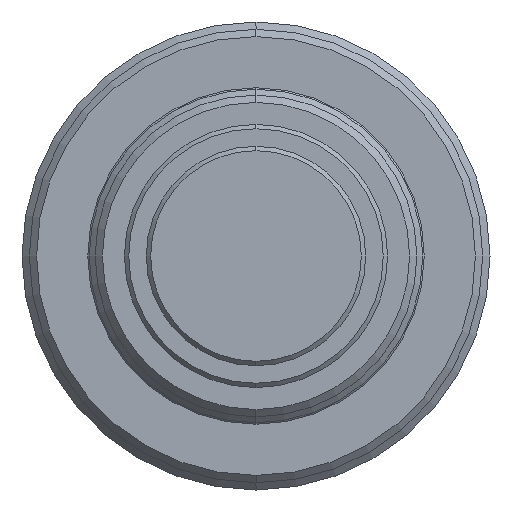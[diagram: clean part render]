
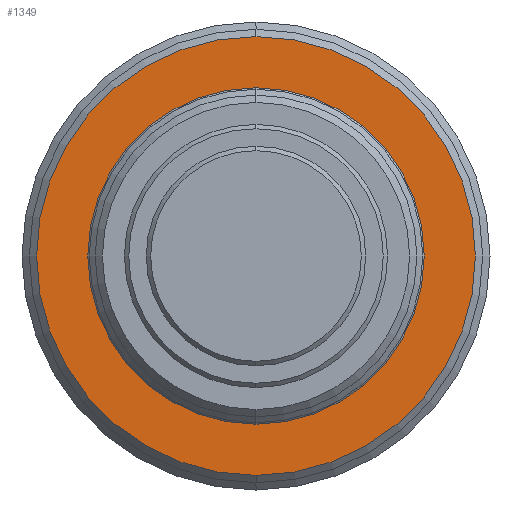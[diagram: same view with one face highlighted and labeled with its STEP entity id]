
A CAD part, left-side view. The second image highlights one B-rep face of the part: STEP entity #1349.
In plain terms, the highlighted planar face has unit normal (-1, 0, 0).
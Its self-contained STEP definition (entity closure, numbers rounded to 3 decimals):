
#14 = EDGE_CURVE ( 'NONE', #720, #773, #513, .T. ) ;
#30 = CARTESIAN_POINT ( 'NONE',  ( -32.526, 0., 0. ) ) ;
#43 = EDGE_LOOP ( 'NONE', ( #1693, #1568 ) ) ;
#161 = DIRECTION ( 'NONE',  ( 0., 0., 1. ) ) ;
#207 = FACE_BOUND ( 'NONE', #43, .T. ) ;
#261 = AXIS2_PLACEMENT_3D ( 'NONE', #625, #760, #885 ) ;
#293 = CARTESIAN_POINT ( 'NONE',  ( -32.526, 0., 0. ) ) ;
#304 = DIRECTION ( 'NONE',  ( 0., 0., 1. ) ) ;
#331 = CIRCLE ( 'NONE', #1085, 15. ) ;
#507 = PLANE ( 'NONE',  #261 ) ;
#513 = CIRCLE ( 'NONE', #1602, 11.5 ) ;
#516 = EDGE_CURVE ( 'NONE', #1616, #1209, #1594, .T. ) ;
#554 = FACE_OUTER_BOUND ( 'NONE', #657, .T. ) ;
#556 = DIRECTION ( 'NONE',  ( -1., 0., 0. ) ) ;
#625 = CARTESIAN_POINT ( 'NONE',  ( -32.526, 11.5, 0. ) ) ;
#636 = ORIENTED_EDGE ( 'NONE', *, *, #813, .T. ) ;
#657 = EDGE_LOOP ( 'NONE', ( #789, #636 ) ) ;
#720 = VERTEX_POINT ( 'NONE', #1116 ) ;
#760 = DIRECTION ( 'NONE',  ( 1., 0., 0. ) ) ;
#773 = VERTEX_POINT ( 'NONE', #1001 ) ;
#789 = ORIENTED_EDGE ( 'NONE', *, *, #516, .T. ) ;
#808 = DIRECTION ( 'NONE',  ( -1., 0., 0. ) ) ;
#813 = EDGE_CURVE ( 'NONE', #1209, #1616, #331, .T. ) ;
#837 = AXIS2_PLACEMENT_3D ( 'NONE', #293, #556, #161 ) ;
#885 = DIRECTION ( 'NONE',  ( 0., 0., -1. ) ) ;
#923 = CARTESIAN_POINT ( 'NONE',  ( -32.526, 0., -15. ) ) ;
#1001 = CARTESIAN_POINT ( 'NONE',  ( -32.526, 0., 11.5 ) ) ;
#1008 = DIRECTION ( 'NONE',  ( 0., 0., 1. ) ) ;
#1085 = AXIS2_PLACEMENT_3D ( 'NONE', #1671, #1373, #1008 ) ;
#1116 = CARTESIAN_POINT ( 'NONE',  ( -32.526, 0., -11.5 ) ) ;
#1209 = VERTEX_POINT ( 'NONE', #1632 ) ;
#1263 = CIRCLE ( 'NONE', #1564, 11.5 ) ;
#1333 = DIRECTION ( 'NONE',  ( 0., 0., 1. ) ) ;
#1349 = ADVANCED_FACE ( 'NONE', ( #207, #554 ), #507, .F. ) ;
#1359 = CARTESIAN_POINT ( 'NONE',  ( -32.526, 0., 0. ) ) ;
#1373 = DIRECTION ( 'NONE',  ( -1., 0., 0. ) ) ;
#1564 = AXIS2_PLACEMENT_3D ( 'NONE', #30, #808, #1333 ) ;
#1568 = ORIENTED_EDGE ( 'NONE', *, *, #14, .F. ) ;
#1578 = DIRECTION ( 'NONE',  ( -1., 0., 0. ) ) ;
#1594 = CIRCLE ( 'NONE', #837, 15. ) ;
#1602 = AXIS2_PLACEMENT_3D ( 'NONE', #1359, #1578, #304 ) ;
#1609 = EDGE_CURVE ( 'NONE', #773, #720, #1263, .T. ) ;
#1616 = VERTEX_POINT ( 'NONE', #923 ) ;
#1632 = CARTESIAN_POINT ( 'NONE',  ( -32.526, 0., 15. ) ) ;
#1671 = CARTESIAN_POINT ( 'NONE',  ( -32.526, 0., 0. ) ) ;
#1693 = ORIENTED_EDGE ( 'NONE', *, *, #1609, .F. ) ;
